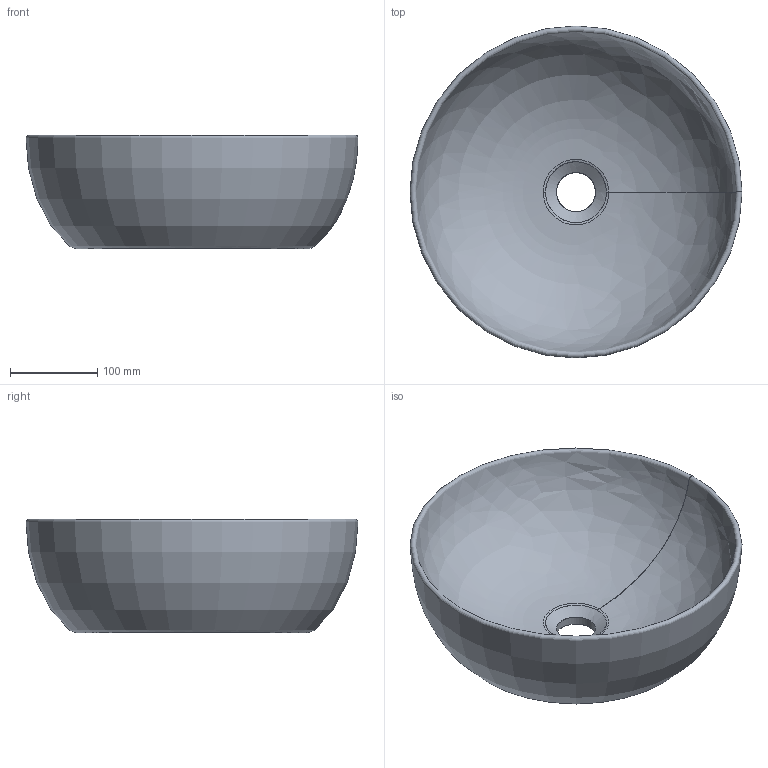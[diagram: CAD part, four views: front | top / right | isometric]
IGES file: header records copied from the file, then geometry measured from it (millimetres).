
Global section: file name: C:\Users\DE NITTO FULVIO\Desktop\Nic\2017\Maggio\Collezione Ovvio\Ovvio Lavabo Bacinella 38\Modello 3D\Ovvio Lavabo Bacinella 38.igs; native system: Rhinoceros ( Oct 24 2012 ); preprocessor: Trout Lake IGES 012 Oct 24 2012; date: 170505.161918; units: millimetre
Bounding box: 380 x 380 x 130 mm (x, y, z)
Surface area: 693017.1 mm2 (no closed solid volume)
Topology: 0 solids, 0 shells, 6 faces, 32 edges, 28 vertices
Faces by surface type: bspline 6
